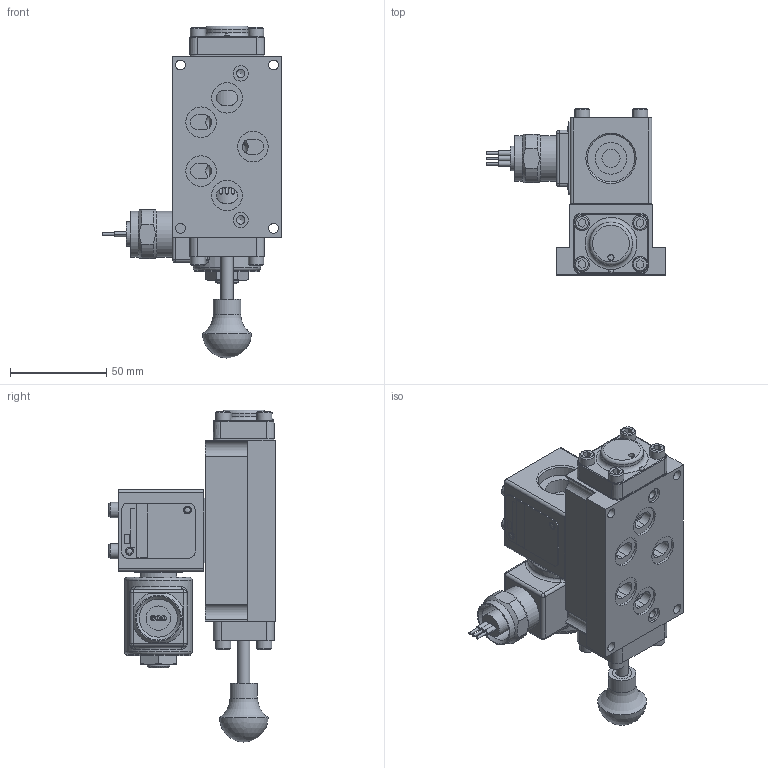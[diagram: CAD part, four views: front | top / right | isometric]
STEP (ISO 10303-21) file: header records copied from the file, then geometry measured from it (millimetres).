
FILE_DESCRIPTION(/* description */ (''),/* implementation_level */ '2;1');
FILE_NAME(/* name */ 'D:\Website Files\stp\Valves\Classic\SO\SO3PMOS.stp',/* time_stamp */ '2018-04-03T22:34:27-04:00',/* author */ ('RMcKenna'),/* organization */ (''),/* preprocessor_version */ 'ST-DEVELOPER v17',/* originating_system */ 'Autodesk Inventor 2018',/* authorisation */ '');
FILE_SCHEMA (('AUTOMOTIVE_DESIGN { 1 0 10303 214 3 1 1 }'));
Length unit declared in the file: centimetre
Products named in the file (1): Part76
Bounding box: 93.56 x 86.58 x 172.72 mm (x, y, z)
Volume: 305768.3 mm3; surface area: 93491.5 mm2
Topology: 2 solids, 36 shells, 1361 faces, 3313 edges, 2144 vertices
Faces by surface type: plane 604, cylinder 304, cone 280, torus 101, bspline 64, sphere 8
Full cylindrical faces by diameter (mm): 1.346 x3, 2.07 x2, 2.261 x2, 2.718 x1, 2.778 x2, 3.048 x3, 3.175 x3, 3.683 x12, 3.912 x1, 3.962 x1, 3.969 x1, 4.366 x9, 4.369 x3, 4.826 x16, 4.978 x1, 5.105 x4, 5.156 x8, 5.159 x9, 5.537 x5, 6.35 x2, 7.671 x1, 7.925 x2, 7.938 x12, 7.95 x1, 8.153 x1, 9.144 x1, 9.462 x2, 9.922 x1, 11.113 x1, 11.303 x2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
Entity records: 46127 total; most frequent: CARTESIAN_POINT 12885, DIRECTION 6681, ORIENTED_EDGE 6568, EDGE_CURVE 3284, AXIS2_PLACEMENT_3D 2575, VERTEX_POINT 2144, EDGE_LOOP 1580, LINE 1531
